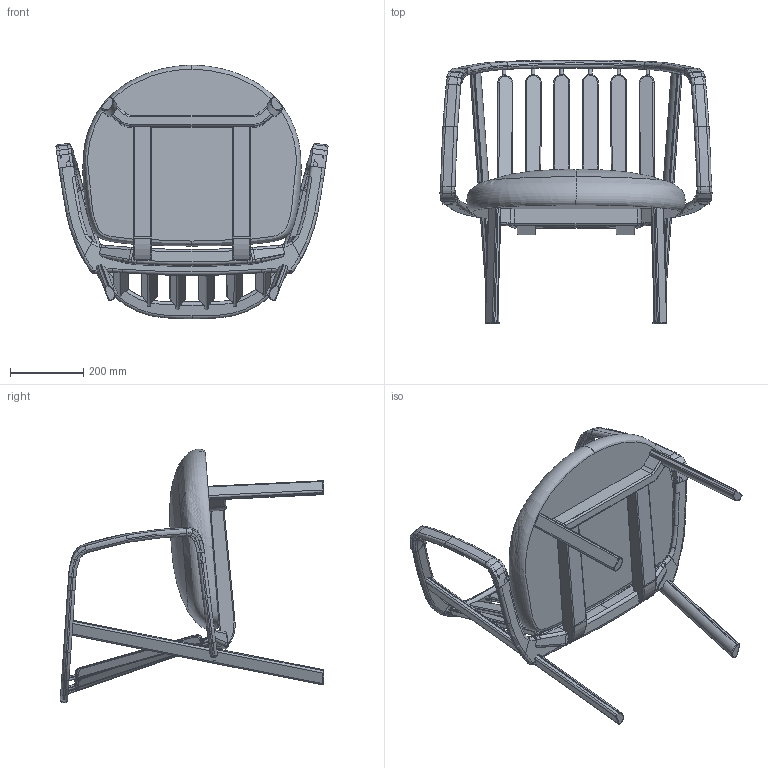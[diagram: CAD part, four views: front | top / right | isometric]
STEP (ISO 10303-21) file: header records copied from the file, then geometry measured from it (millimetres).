
FILE_DESCRIPTION (( 'STEP AP203' ), '1' );
FILE_NAME ('fotelja WHERRY_defeature.STEP', '2022-08-24T10:50:17', ( '' ), ( '' ), 'SwSTEP 2.0', 'SolidWorks 2021', '' );
FILE_SCHEMA (( 'CONFIG_CONTROL_DESIGN' ));
Length unit declared in the file: millimetre
Products named in the file (2): fotelja WHERRY_defeature; Group1^fotelja WHERRY_defeature
Assembly tree (1 placements, depth 2):
  fotelja WHERRY_defeature
    Group1^fotelja WHERRY_defeature
Bounding box: 743.72 x 719.97 x 692.58 mm (x, y, z)
Volume: 30280637.3 mm3; surface area: 1745653.9 mm2
Topology: 17 solids, 17 shells, 962 faces, 2376 edges, 1451 vertices
Faces by surface type: bspline 355, cylinder 298, plane 206, torus 103
Entity records: 68231 total; most frequent: CARTESIAN_POINT 48341, ORIENTED_EDGE 4740, DIRECTION 3288, EDGE_CURVE 2370, VERTEX_POINT 1451, AXIS2_PLACEMENT_3D 1282, EDGE_LOOP 971, ADVANCED_FACE 962
